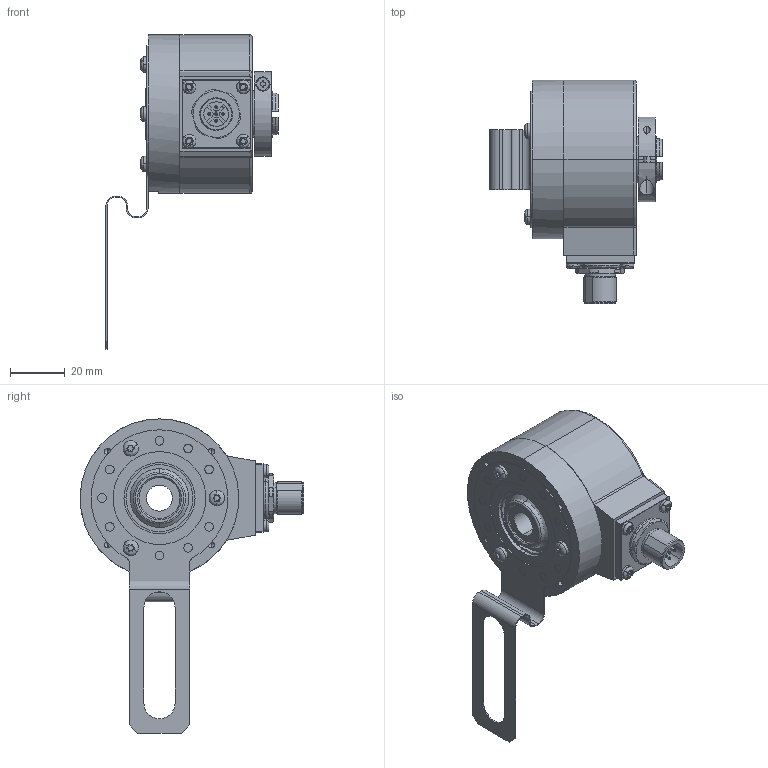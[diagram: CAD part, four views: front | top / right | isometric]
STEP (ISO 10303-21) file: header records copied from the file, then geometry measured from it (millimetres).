
FILE_DESCRIPTION (( 'STEP AP203' ), '1' );
FILE_NAME ('K58I.OXX.XXXXX.XC2452A.6XRC3.step', '2025-12-08T12:35:06', ( '' ), ( '' ), 'SwSTEP 2.0', 'SolidWorks 2021', '' );
FILE_SCHEMA (( 'CONFIG_CONTROL_DESIGN' ));
Length unit declared in the file: millimetre
Products named in the file (1): K58I.OXX.XXXXX.XC2452A.6XRC3
Bounding box: 62.99 x 81.8 x 115 mm (x, y, z)
Surface area: 41983.6 mm2 (no closed solid volume)
Topology: 0 solids, 14 shells, 624 faces, 1575 edges, 998 vertices
Faces by surface type: cylinder 326, plane 191, cone 68, bspline 30, torus 9
Entity records: 21992 total; most frequent: CARTESIAN_POINT 6857, DIRECTION 3251, ORIENTED_EDGE 3106, EDGE_CURVE 1561, AXIS2_PLACEMENT_3D 1292, VERTEX_POINT 998, EDGE_LOOP 703, CIRCLE 697
